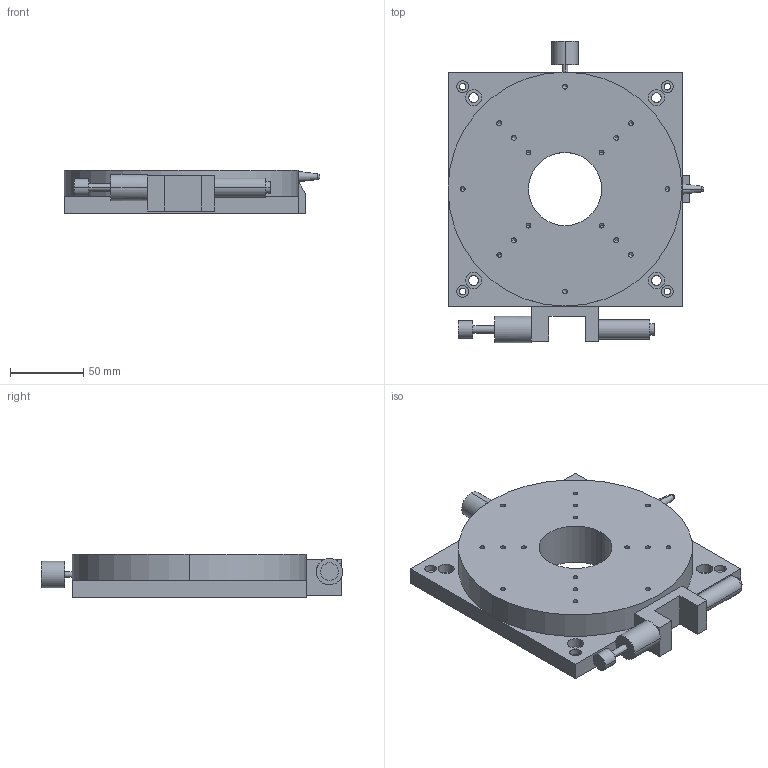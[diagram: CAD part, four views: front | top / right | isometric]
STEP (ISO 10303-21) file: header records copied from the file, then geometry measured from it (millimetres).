
FILE_DESCRIPTION (( 'STEP AP203' ), '1' );
FILE_NAME ('PT-R160.STEP', '2025-08-22T07:19:18', ( '' ), ( '' ), 'SwSTEP 2.0', 'SolidWorks 2023', '' );
FILE_SCHEMA (( 'CONFIG_CONTROL_DESIGN' ));
Length unit declared in the file: millimetre
Products named in the file (1): PT-R160
Bounding box: 174.99 x 206 x 30 mm (x, y, z)
Volume: 639096.8 mm3; surface area: 84393.5 mm2
Topology: 5 solids, 5 shells, 165 faces, 382 edges, 224 vertices
Faces by surface type: cylinder 82, plane 47, cone 34, bspline 2
Entity records: 4602 total; most frequent: DIRECTION 853, CARTESIAN_POINT 770, ORIENTED_EDGE 700, EDGE_CURVE 350, AXIS2_PLACEMENT_3D 339, VERTEX_POINT 224, EDGE_LOOP 212, LINE 175
